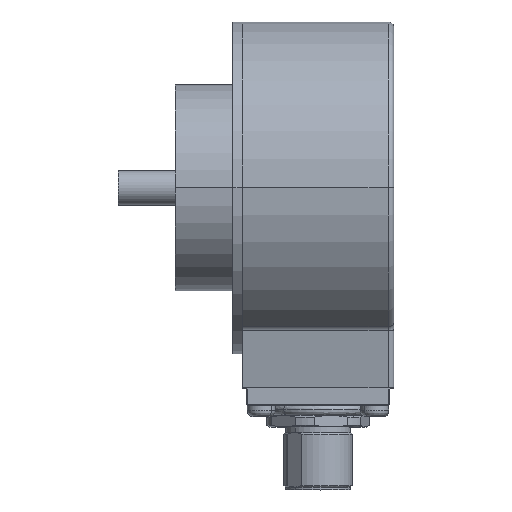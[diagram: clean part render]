
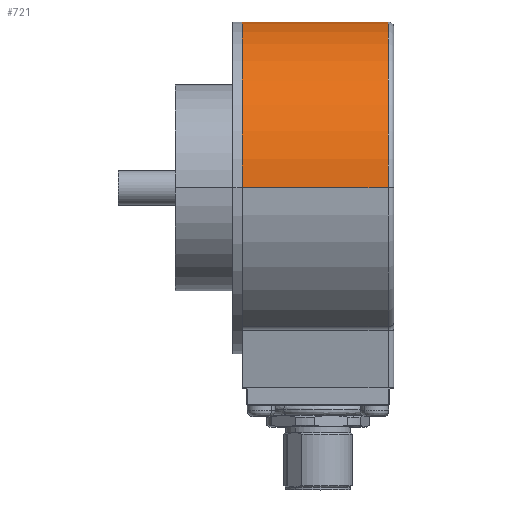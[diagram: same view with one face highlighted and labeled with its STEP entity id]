
A CAD part, top view. The second image highlights one B-rep face of the part: STEP entity #721.
In plain terms, the highlighted cylindrical face has radius 29 mm (diameter 58 mm), a partial arc.
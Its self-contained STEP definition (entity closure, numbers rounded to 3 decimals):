
#599 = ORIENTED_EDGE ( 'NONE', *, *, #11959, .F. ) ;
#721 = ADVANCED_FACE ( 'NONE', ( #8414 ), #2907, .T. ) ;
#740 = CARTESIAN_POINT ( 'NONE',  ( 8.068, 25.423, -29. ) ) ;
#1034 = CARTESIAN_POINT ( 'NONE',  ( 8.068, 25.423, 0. ) ) ;
#1225 = CIRCLE ( 'NONE', #8387, 29. ) ;
#1355 = CARTESIAN_POINT ( 'NONE',  ( 8.068, 25.423, 29. ) ) ;
#2292 = CARTESIAN_POINT ( 'NONE',  ( 33.568, 25.423, 0. ) ) ;
#2346 = LINE ( 'NONE', #8814, #2783 ) ;
#2459 = ORIENTED_EDGE ( 'NONE', *, *, #7003, .F. ) ;
#2783 = VECTOR ( 'NONE', #5372, 1000. ) ;
#2788 = DIRECTION ( 'NONE',  ( 0., 0., -1. ) ) ;
#2905 = DIRECTION ( 'NONE',  ( 0., 0., -1. ) ) ;
#2907 = CYLINDRICAL_SURFACE ( 'NONE', #10536, 29. ) ;
#3162 = CARTESIAN_POINT ( 'NONE',  ( 33.568, 25.423, -29. ) ) ;
#4738 = ORIENTED_EDGE ( 'NONE', *, *, #7171, .T. ) ;
#4951 = DIRECTION ( 'NONE',  ( -1., 0., 0. ) ) ;
#5372 = DIRECTION ( 'NONE',  ( -1., 0., 0. ) ) ;
#5681 = CIRCLE ( 'NONE', #9154, 29. ) ;
#7003 = EDGE_CURVE ( 'NONE', #8344, #7839, #5681, .T. ) ;
#7171 = EDGE_CURVE ( 'NONE', #10678, #8999, #1225, .T. ) ;
#7315 = EDGE_CURVE ( 'NONE', #8999, #7839, #2346, .T. ) ;
#7556 = CARTESIAN_POINT ( 'NONE',  ( 8.068, 25.423, 0. ) ) ;
#7591 = VECTOR ( 'NONE', #7712, 1000. ) ;
#7712 = DIRECTION ( 'NONE',  ( -1., 0., 0. ) ) ;
#7839 = VERTEX_POINT ( 'NONE', #740 ) ;
#8329 = EDGE_LOOP ( 'NONE', ( #599, #4738, #10360, #2459 ) ) ;
#8344 = VERTEX_POINT ( 'NONE', #8708 ) ;
#8387 = AXIS2_PLACEMENT_3D ( 'NONE', #2292, #4951, #11434 ) ;
#8414 = FACE_OUTER_BOUND ( 'NONE', #8329, .T. ) ;
#8466 = DIRECTION ( 'NONE',  ( -1., 0., 0. ) ) ;
#8708 = CARTESIAN_POINT ( 'NONE',  ( 8.068, 25.423, 29. ) ) ;
#8814 = CARTESIAN_POINT ( 'NONE',  ( 8.068, 25.423, -29. ) ) ;
#8999 = VERTEX_POINT ( 'NONE', #3162 ) ;
#9154 = AXIS2_PLACEMENT_3D ( 'NONE', #7556, #8466, #2905 ) ;
#9266 = DIRECTION ( 'NONE',  ( -1., 0., 0. ) ) ;
#10114 = CARTESIAN_POINT ( 'NONE',  ( 33.568, 25.423, 29. ) ) ;
#10360 = ORIENTED_EDGE ( 'NONE', *, *, #7315, .T. ) ;
#10536 = AXIS2_PLACEMENT_3D ( 'NONE', #1034, #9266, #2788 ) ;
#10678 = VERTEX_POINT ( 'NONE', #10114 ) ;
#11416 = LINE ( 'NONE', #1355, #7591 ) ;
#11434 = DIRECTION ( 'NONE',  ( 0., 0., -1. ) ) ;
#11959 = EDGE_CURVE ( 'NONE', #10678, #8344, #11416, .T. ) ;
